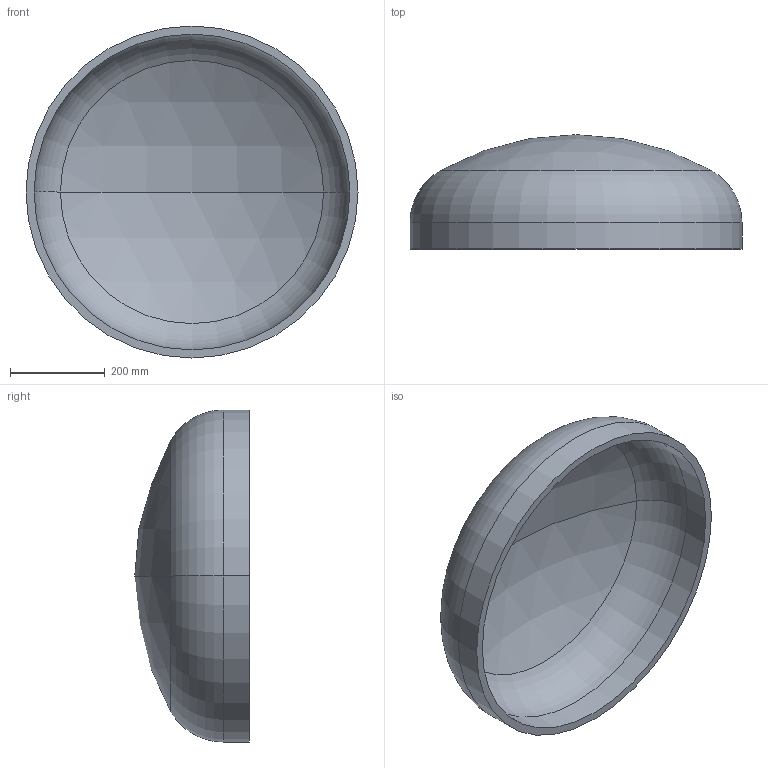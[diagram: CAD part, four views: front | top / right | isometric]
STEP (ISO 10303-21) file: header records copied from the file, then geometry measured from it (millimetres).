
FILE_DESCRIPTION (( 'STEP AP203' ), '1' );
FILE_NAME ('DIN 28013 Korbbogenform_-_Boden DIN 28013 - 700 x 55 - I - s=17.step', '2016-07-01T08:04:53', ( '' ), ( '' ), 'SwSTEP 2.0', 'SolidWorks 2013', '' );
FILE_SCHEMA (( 'CONFIG_CONTROL_DESIGN' ));
Length unit declared in the file: millimetre
Products named in the file (1): DIN 28013 Korbbogenform_-_Boden DIN 28013 - 700 x 55 - I - s=17
Bounding box: 700 x 241.14 x 700 mm (x, y, z)
Volume: 10818840.4 mm3; surface area: 1309886.7 mm2
Topology: 1 solids, 1 shells, 13 faces, 24 edges, 14 vertices
Faces by surface type: torus 4, cylinder 4, sphere 4, plane 1
Entity records: 407 total; most frequent: DIRECTION 72, CARTESIAN_POINT 52, ORIENTED_EDGE 48, AXIS2_PLACEMENT_3D 34, EDGE_CURVE 24, CIRCLE 20, EDGE_LOOP 14, VERTEX_POINT 14
